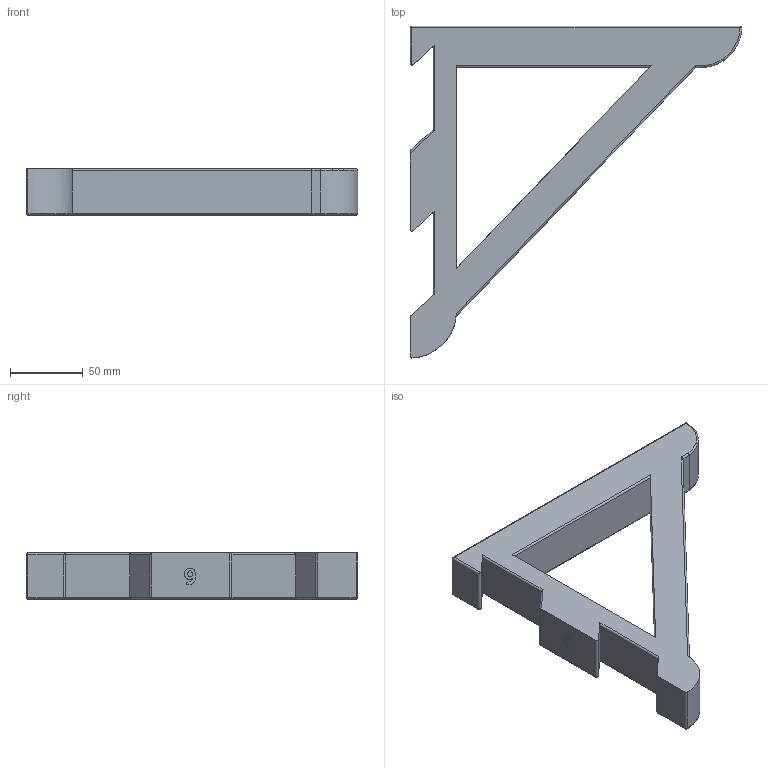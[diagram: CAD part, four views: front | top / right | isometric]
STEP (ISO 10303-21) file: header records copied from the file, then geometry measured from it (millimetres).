
FILE_DESCRIPTION(/* description */ ('STEP AP242','CAx-IF Rec.Pracs.---Representation and Presentation of Product Manufacturing Information (PMI)---4.0---2014-10-13','CAx-IF Rec.Pracs.---3D Tessellated Geometry---0.4---2014-09-14','2;1'),/* implementation_level */ '2;1');
FILE_NAME(/* name */ '677db8d55ad3f57153c9994e',/* time_stamp */ '2025-01-07T23:29:25Z',/* author */ (''),/* organization */ (''),/* preprocessor_version */ 'ST-DEVELOPER v20',/* originating_system */ 'ONSHAPE BY PTC INC, 1.191',/* authorisation */ ' ');
FILE_SCHEMA (('AP242_MANAGED_MODEL_BASED_3D_ENGINEERING_MIM_LF { 1 0 10303 442 1 1 4 }'));
Length unit declared in the file: metre
Products named in the file (1): Shelf Bracket-9
Bounding box: 228.57 x 228.57 x 31.75 mm (x, y, z)
Volume: 494463.7 mm3; surface area: 72346.8 mm2
Topology: 1 solids, 1 shells, 88 faces, 221 edges, 128 vertices
Faces by surface type: cylinder 33, plane 24, bspline 19, sphere 9, torus 3
Entity records: 2625 total; most frequent: CARTESIAN_POINT 655, ORIENTED_EDGE 424, DIRECTION 368, EDGE_CURVE 212, VERTEX_POINT 128, AXIS2_PLACEMENT_3D 128, LINE 112, VECTOR 112
